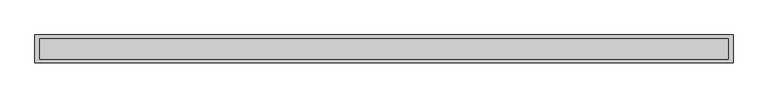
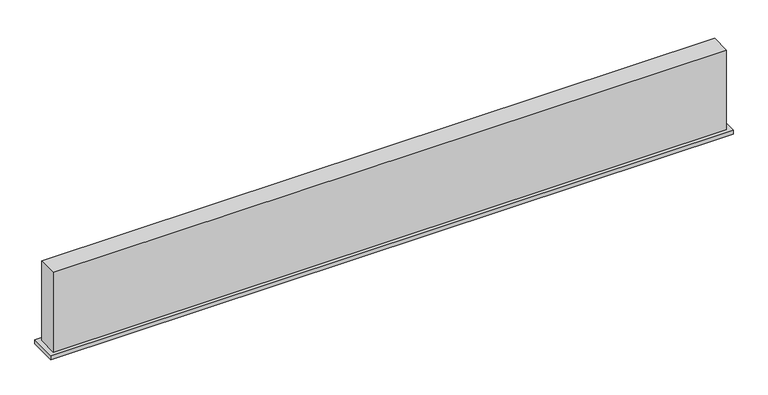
"""IFC4 building model written with IfcOpenShell, lengths in millimetres: air terminal geometry, 033_線状吹出口_BL : BL-S."""

from ifc_helpers import new_model, si_unit, frame, origin, origin_with_axes, place, context, project, spatial, polyline, outline, extrude, source, transform, mapped, element, save


def air_terminal_971d7413(model_context):
    return source(origin(), model_context, "Body", "SweptSolid", [
        extrude(outline(polyline([(811.0, -32.5), (-811.0, -32.5), (-811.0, 32.5), (811.0, 32.5), (811.0, -32.5)]), holes=[polyline([(800.0, -24.0), (800.0, 24.0), (-800.0, 24.0), (-800.0, -24.0), (800.0, -24.0)])]), frame((0.0, 0.0, -10.0), z_axis=(0.0, 0.0, 1.0), x_axis=(1.0, 0.0, 0.0)), (0.0, 0.0, 1.0), 10.0),
        extrude(outline(polyline([(800.0, 24.0), (800.0, -24.0), (-800.0, -24.0), (-800.0, 24.0), (800.0, 24.0)])), origin_with_axes(), (0.0, 0.0, 1.0), 200.0),
    ])


if __name__ == "__main__":
    model = new_model("IFC4")
    model_context = context("Model", 3, world=origin())
    ifc_project = project(units=[si_unit("LENGTHUNIT", "METRE", prefix="MILLI")], contexts=[model_context])
    site = spatial("IfcSite", under=ifc_project)
    building = spatial("IfcBuilding", under=site)
    placement = place(None, origin())
    air_terminal_shape = air_terminal_971d7413(model_context)
    element("IfcAirTerminal", 1, ObjectType="033_線状吹出口_BL : BL-S", at=placement, inside=building, context=model_context, shape_type="MappedRepresentation", body=[
        mapped(air_terminal_shape, transform((0.0, 0.0, 0.0), x_axis=(1.0, 0.0, 0.0), y_axis=(0.0, 1.0, 0.0), z_axis=(0.0, 0.0, 1.0))),
    ])
    save(model, "model.ifc")
